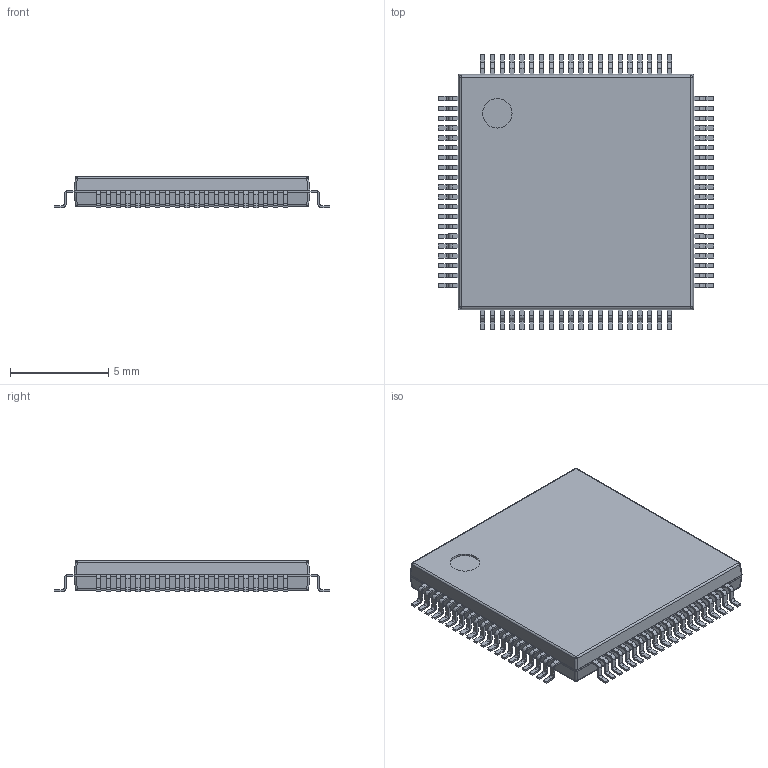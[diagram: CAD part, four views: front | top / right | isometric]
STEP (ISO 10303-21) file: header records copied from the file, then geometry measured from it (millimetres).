
FILE_DESCRIPTION(('Open CASCADE Model'),'2;1');
FILE_NAME('Open CASCADE Shape Model','2024-07-22T17:05:27',('Author'),( 'Open CASCADE'),'Open CASCADE STEP processor 7.5','Open CASCADE 7.5' ,'Unknown');
FILE_SCHEMA(('AUTOMOTIVE_DESIGN { 1 0 10303 214 1 1 1 1 }'));
Length unit declared in the file: millimetre
Products named in the file (6): TSQFP50P1400X1400X160-80N.step; Open CASCADE STEP translator 7.5 22.1; Body; Open CASCADE STEP translator 7.5 22.2.1; Leader
Assembly tree (83 placements, depth 3):
  TSQFP50P1400X1400X160-80N.step
    Open CASCADE STEP translator 7.5 22.1
    Body
      Open CASCADE STEP translator 7.5 22.2.1
    Leader  x40
    Leader  x40
Bounding box: 14 x 14 x 1.6 mm (x, y, z)
Volume: 223.2 mm3; surface area: 443.1 mm2
Topology: 81 solids, 82 shells, 1821 faces, 3644 edges, 1979 vertices
Faces by surface type: plane 1456, cylinder 349, bspline 8, sphere 8
Full cylindrical faces by diameter (mm): 1.5 x1
Entity records: 4019 total; most frequent: CARTESIAN_POINT 1332, DIRECTION 577, ORIENTED_EDGE 407, AXIS2_PLACEMENT_3D 224, EDGE_CURVE 204, LINE 129, VECTOR 129, VERTEX_POINT 107
